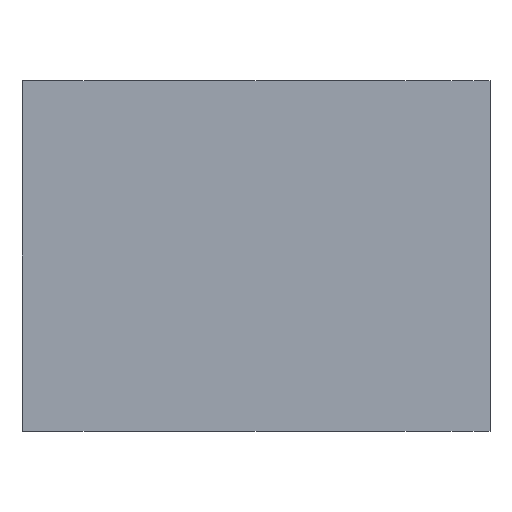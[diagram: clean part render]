
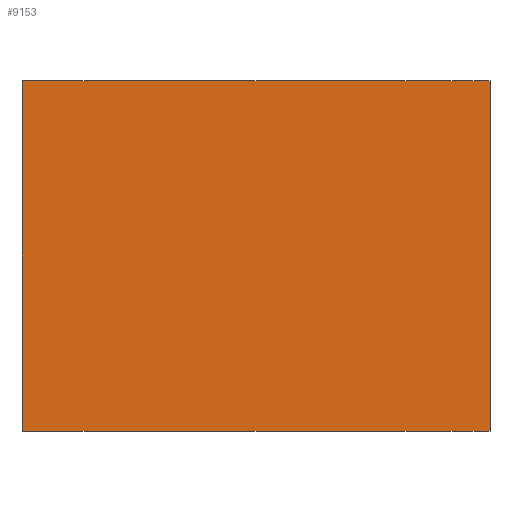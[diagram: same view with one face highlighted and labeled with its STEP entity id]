
A CAD part, front view. The second image highlights one B-rep face of the part: STEP entity #9153.
In plain terms, the highlighted planar face has unit normal (0, -1, 0).
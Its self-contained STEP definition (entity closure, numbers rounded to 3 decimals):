
#14 = EDGE_CURVE ( 'NONE', #12188, #15169, #2574, .T. ) ;
#513 = LINE ( 'NONE', #11306, #11564 ) ;
#734 = DIRECTION ( 'NONE',  ( 0., -1., 0. ) ) ;
#1073 = DIRECTION ( 'NONE',  ( 0., 0., 1. ) ) ;
#1646 = EDGE_CURVE ( 'NONE', #2887, #3409, #513, .T. ) ;
#2063 = PLANE ( 'NONE',  #8020 ) ;
#2574 = LINE ( 'NONE', #3320, #16974 ) ;
#2887 = VERTEX_POINT ( 'NONE', #7818 ) ;
#2938 = VECTOR ( 'NONE', #4797, 1000. ) ;
#3320 = CARTESIAN_POINT ( 'NONE',  ( 25., 0., 0. ) ) ;
#3409 = VERTEX_POINT ( 'NONE', #12170 ) ;
#4462 = ORIENTED_EDGE ( 'NONE', *, *, #14, .T. ) ;
#4463 = DIRECTION ( 'NONE',  ( 0., 0., 1. ) ) ;
#4797 = DIRECTION ( 'NONE',  ( -1., 0., 0. ) ) ;
#5459 = ORIENTED_EDGE ( 'NONE', *, *, #9477, .T. ) ;
#6510 = VECTOR ( 'NONE', #14910, 1000. ) ;
#6835 = CARTESIAN_POINT ( 'NONE',  ( 25., 0., -18.7 ) ) ;
#7102 = CARTESIAN_POINT ( 'NONE',  ( 25., 0., 18.7 ) ) ;
#7818 = CARTESIAN_POINT ( 'NONE',  ( -25., 0., -18.7 ) ) ;
#8020 = AXIS2_PLACEMENT_3D ( 'NONE', #8848, #734, #10213 ) ;
#8059 = CARTESIAN_POINT ( 'NONE',  ( 25., 0., 18.7 ) ) ;
#8531 = ORIENTED_EDGE ( 'NONE', *, *, #9156, .F. ) ;
#8848 = CARTESIAN_POINT ( 'NONE',  ( 25., 0., 0. ) ) ;
#9153 = ADVANCED_FACE ( 'NONE', ( #14675 ), #2063, .T. ) ;
#9156 = EDGE_CURVE ( 'NONE', #12188, #2887, #13338, .T. ) ;
#9477 = EDGE_CURVE ( 'NONE', #15169, #3409, #17389, .T. ) ;
#10213 = DIRECTION ( 'NONE',  ( 0., 0., -1. ) ) ;
#11306 = CARTESIAN_POINT ( 'NONE',  ( -25., 0., 0. ) ) ;
#11564 = VECTOR ( 'NONE', #4463, 1000. ) ;
#12170 = CARTESIAN_POINT ( 'NONE',  ( -25., 0., 18.7 ) ) ;
#12188 = VERTEX_POINT ( 'NONE', #6835 ) ;
#12948 = CARTESIAN_POINT ( 'NONE',  ( 25., 0., -18.7 ) ) ;
#13338 = LINE ( 'NONE', #12948, #2938 ) ;
#14592 = EDGE_LOOP ( 'NONE', ( #16509, #8531, #4462, #5459 ) ) ;
#14675 = FACE_OUTER_BOUND ( 'NONE', #14592, .T. ) ;
#14910 = DIRECTION ( 'NONE',  ( -1., 0., 0. ) ) ;
#15169 = VERTEX_POINT ( 'NONE', #7102 ) ;
#16509 = ORIENTED_EDGE ( 'NONE', *, *, #1646, .F. ) ;
#16974 = VECTOR ( 'NONE', #1073, 1000. ) ;
#17389 = LINE ( 'NONE', #8059, #6510 ) ;
